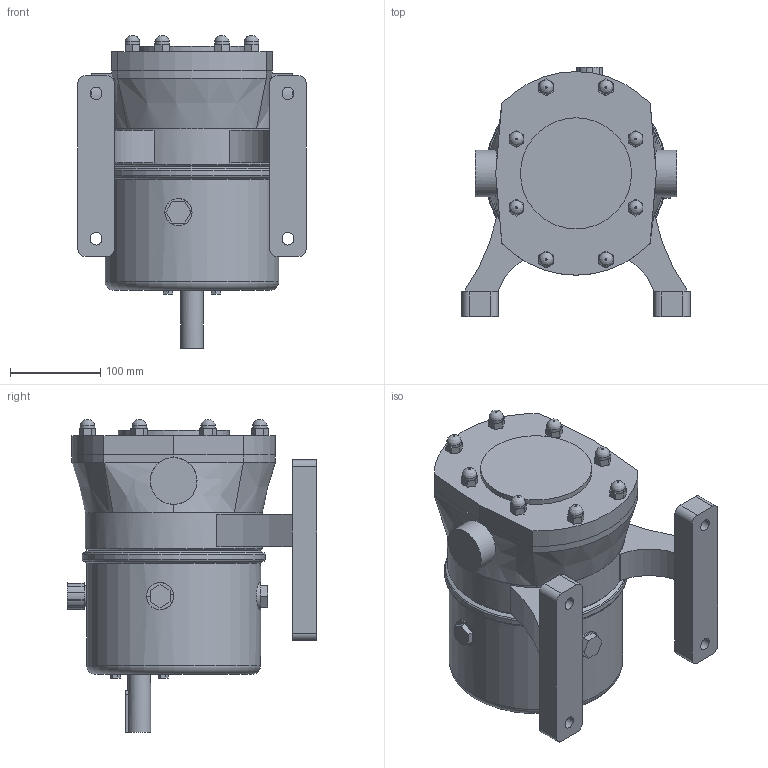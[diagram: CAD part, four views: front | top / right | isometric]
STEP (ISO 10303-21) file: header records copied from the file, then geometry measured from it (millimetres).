
FILE_DESCRIPTION((''),'2;1');
FILE_NAME('T:\_Engineering\Read Only\Studenci\Maciej\DW pumps\STEP\DW3_030_10_shaft_top.stp','2013-06-10T14:59:12',('pszymczyk'),(''),'Autodesk Inventor 2012','Autodesk Inventor 2012','');
FILE_SCHEMA(('CONFIG_CONTROL_DESIGN'));
Length unit declared in the file: millimetre
Products named in the file (1): DW_iparts
Bounding box: 252 x 275.5 x 345.65 mm (x, y, z)
Volume: 5355036.7 mm3; surface area: 513361.8 mm2
Topology: 1 solids, 3 shells, 313 faces, 757 edges, 475 vertices
Faces by surface type: plane 219, cylinder 69, bspline 12, cone 9, torus 4
Full cylindrical faces by diameter (mm): 16 x8, 23 x1, 25 x1, 30 x4, 51.6 x2, 90 x1, 110 x1, 122.8 x1, 189 x2, 192 x2, 196 x2, 202 x1
Entity records: 9544 total; most frequent: CARTESIAN_POINT 2199, DIRECTION 1511, ORIENTED_EDGE 1424, EDGE_CURVE 712, AXIS2_PLACEMENT_3D 506, VECTOR 499, LINE 499, VERTEX_POINT 472
